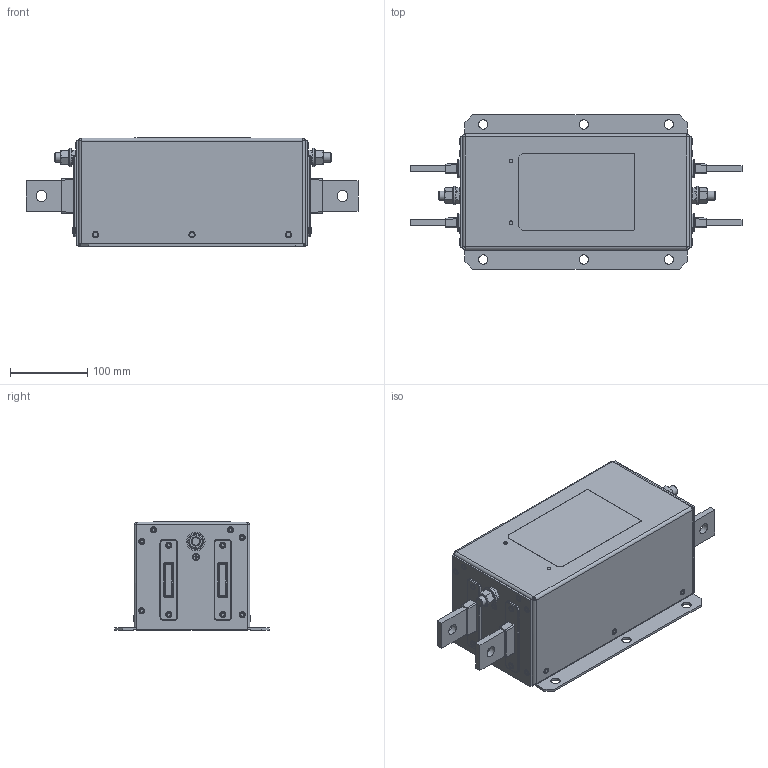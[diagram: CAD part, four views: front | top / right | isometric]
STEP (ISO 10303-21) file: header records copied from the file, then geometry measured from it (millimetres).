
FILE_DESCRIPTION((''),'2;1');
FILE_NAME('C:\Users\orhan.eker\Desktop\FN2200-800.1000-99.stp','2013-05-08T17:28:31',('orhan.eker'),(''),'Autodesk Inventor 2010','Autodesk Inventor 2010','');
FILE_SCHEMA(('AUTOMOTIVE_DESIGN { 1 0 10303 214 1 1 1 1 }'));
Length unit declared in the file: millimetre
Products named in the file (1): FN2200-800
Bounding box: 430 x 200 x 140.3 mm (x, y, z)
Volume: 983202.6 mm3; surface area: 603067.7 mm2
Topology: 18 solids, 18 shells, 1583 faces, 4077 edges, 2639 vertices
Faces by surface type: plane 785, cylinder 628, torus 74, bspline 74, cone 22
Full cylindrical faces by diameter (mm): 4 x26, 4.1 x6, 4.3 x18, 4.8 x2, 6 x8, 8 x28, 9 x2, 10 x8, 12 x12, 13 x4, 14 x4, 16.63 x2, 24 x2
Entity records: 50954 total; most frequent: CARTESIAN_POINT 10598, DIRECTION 8240, ORIENTED_EDGE 7716, EDGE_CURVE 3858, AXIS2_PLACEMENT_3D 2988, VERTEX_POINT 2612, VECTOR 2264, LINE 2264
